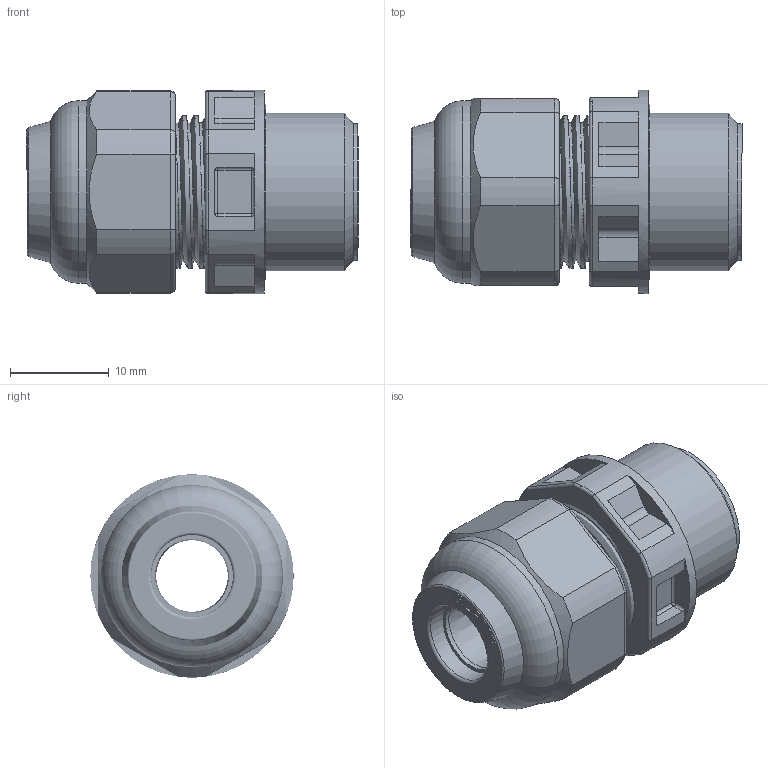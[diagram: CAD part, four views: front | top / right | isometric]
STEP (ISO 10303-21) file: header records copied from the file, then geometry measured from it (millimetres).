
FILE_DESCRIPTION(/* description */ (''),/* implementation_level */ '2;1');
FILE_NAME(/* name */ '4004457.stp',/* time_stamp */ '2019-03-01T14:47:11+01:00',/* author */ (''),/* organization */ (''),/* preprocessor_version */ 'ST-DEVELOPER v16.7',/* originating_system */ 'SIEMENS PLM Software NX 12.0',/* authorisation */ '');
FILE_SCHEMA (('AUTOMOTIVE_DESIGN { 1 0 10303 214 3 1 1 1 }'));
Length unit declared in the file: millimetre
Products named in the file (1): bsom23CC53FBpqha
Bounding box: 33.65 x 20.6 x 20.6 mm (x, y, z)
Volume: 5379.2 mm3; surface area: 6330.5 mm2
Topology: 3 solids, 3 shells, 403 faces, 1078 edges, 693 vertices
Faces by surface type: plane 219, cylinder 74, extrusion 38, cone 30, bspline 18, torus 16, sphere 8
Full cylindrical faces by diameter (mm): 7.5 x1, 8.3 x1, 9 x1, 10.7 x1, 10.8 x1, 13.86 x1, 14 x7, 14.3 x1, 16 x1, 16.2 x1, 18.5 x1, 20.6 x1
Entity records: 27778 total; most frequent: CARTESIAN_POINT 18635, ORIENTED_EDGE 2012, DIRECTION 1606, EDGE_CURVE 1006, VERTEX_POINT 671, AXIS2_PLACEMENT_3D 544, VECTOR 518, LINE 480
